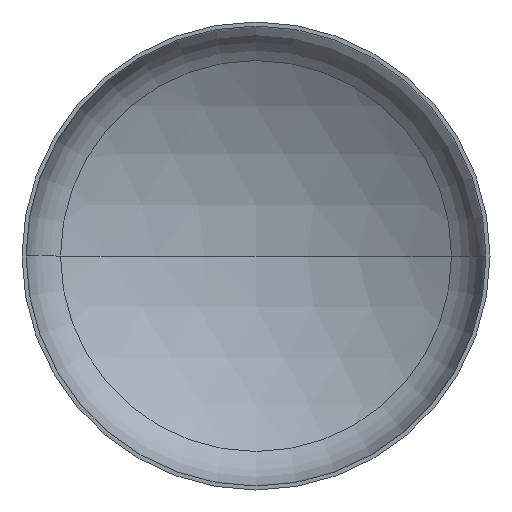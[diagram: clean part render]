
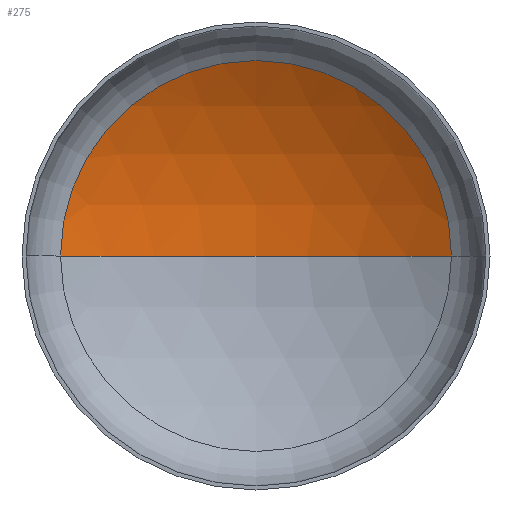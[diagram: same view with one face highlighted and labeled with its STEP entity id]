
A CAD part, front view. The second image highlights one B-rep face of the part: STEP entity #275.
In plain terms, the highlighted spherical face has radius 5600 mm.
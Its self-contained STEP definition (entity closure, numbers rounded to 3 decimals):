
#15 = ORIENTED_EDGE ( 'NONE', *, *, #209, .F. ) ;
#16 = VERTEX_POINT ( 'NONE', #263 ) ;
#19 = DIRECTION ( 'NONE',  ( 0., 0., -1. ) ) ;
#52 = AXIS2_PLACEMENT_3D ( 'NONE', #130, #19, #390 ) ;
#59 = VERTEX_POINT ( 'NONE', #139 ) ;
#101 = DIRECTION ( 'NONE',  ( 0., 0., -1. ) ) ;
#103 = DIRECTION ( 'NONE',  ( -1., 0., 0. ) ) ;
#104 = EDGE_LOOP ( 'NONE', ( #15, #119, #290 ) ) ;
#107 = VERTEX_POINT ( 'NONE', #350 ) ;
#110 = CARTESIAN_POINT ( 'NONE',  ( 0., -3734.971, 0. ) ) ;
#119 = ORIENTED_EDGE ( 'NONE', *, *, #296, .T. ) ;
#130 = CARTESIAN_POINT ( 'NONE',  ( 0., -3734.971, 0. ) ) ;
#139 = CARTESIAN_POINT ( 'NONE',  ( 0., 1865.029, 0. ) ) ;
#146 = DIRECTION ( 'NONE',  ( 1., 0., 0. ) ) ;
#157 = CIRCLE ( 'NONE', #387, 5600. ) ;
#158 = CARTESIAN_POINT ( 'NONE',  ( 0., -3734.971, 0. ) ) ;
#179 = DIRECTION ( 'NONE',  ( 1., 0., 0. ) ) ;
#181 = DIRECTION ( 'NONE',  ( 0., 0., 1. ) ) ;
#209 = EDGE_CURVE ( 'NONE', #59, #16, #307, .T. ) ;
#230 = SPHERICAL_SURFACE ( 'NONE', #52, 5600. ) ;
#242 = AXIS2_PLACEMENT_3D ( 'NONE', #309, #311, #146 ) ;
#263 = CARTESIAN_POINT ( 'NONE',  ( -2923.894, 1041.099, 0. ) ) ;
#275 = ADVANCED_FACE ( 'NONE', ( #294 ), #230, .F. ) ;
#290 = ORIENTED_EDGE ( 'NONE', *, *, #379, .T. ) ;
#294 = FACE_OUTER_BOUND ( 'NONE', #104, .T. ) ;
#296 = EDGE_CURVE ( 'NONE', #59, #107, #157, .T. ) ;
#307 = CIRCLE ( 'NONE', #310, 5600. ) ;
#309 = CARTESIAN_POINT ( 'NONE',  ( 0., 1041.099, 0. ) ) ;
#310 = AXIS2_PLACEMENT_3D ( 'NONE', #158, #181, #179 ) ;
#311 = DIRECTION ( 'NONE',  ( 0., -1., 0. ) ) ;
#337 = CIRCLE ( 'NONE', #242, 2923.894 ) ;
#350 = CARTESIAN_POINT ( 'NONE',  ( 2923.894, 1041.099, 0. ) ) ;
#379 = EDGE_CURVE ( 'NONE', #107, #16, #337, .T. ) ;
#387 = AXIS2_PLACEMENT_3D ( 'NONE', #110, #101, #103 ) ;
#390 = DIRECTION ( 'NONE',  ( -1., 0., 0. ) ) ;
